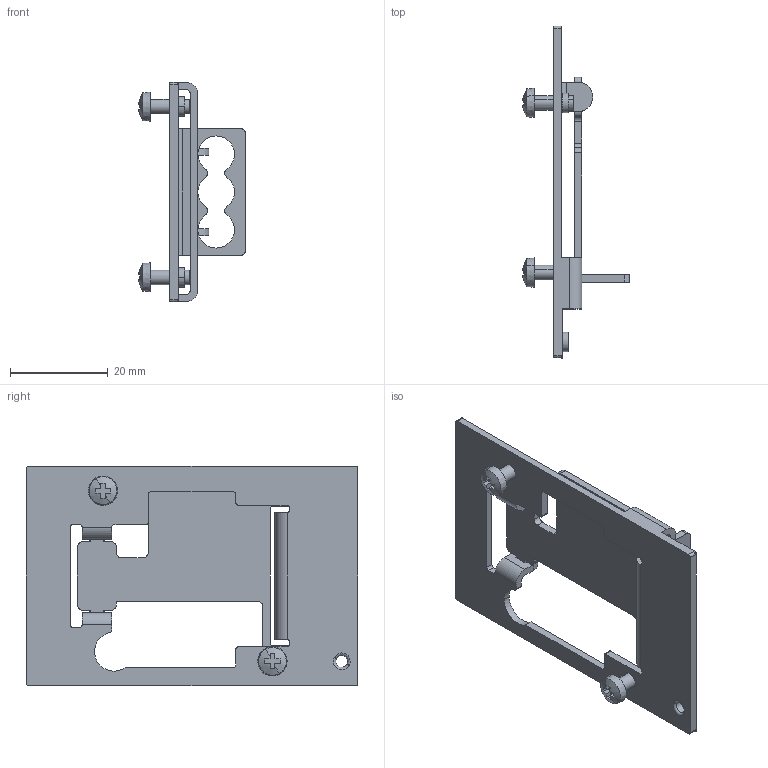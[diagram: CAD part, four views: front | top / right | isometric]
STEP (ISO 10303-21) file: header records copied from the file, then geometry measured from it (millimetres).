
FILE_DESCRIPTION((''),'2;1');
FILE_NAME('PRT0003','2022-09-09T16:23:02',('SGowda1'),('Rockwell Automation'),'CREO PARAMETRIC BY PTC INC, 2020281','CREO PARAMETRIC BY PTC INC, 2020281','');
FILE_SCHEMA(('AUTOMOTIVE_DESIGN { 1 0 10303 214 1 1 1 1 }'));
Length unit declared in the file: millimetre
Products named in the file (1): PRT0003
Bounding box: 21.91 x 68 x 45 mm (x, y, z)
Volume: 4882.6 mm3; surface area: 7855.1 mm2
Topology: 1 solids, 3 shells, 201 faces, 562 edges, 366 vertices
Faces by surface type: plane 97, cylinder 80, torus 16, bspline 4, cone 4
Entity records: 8273 total; most frequent: CARTESIAN_POINT 1419, DIRECTION 1138, ORIENTED_EDGE 1118, EDGE_CURVE 562, AXIS2_PLACEMENT_3D 411, VERTEX_POINT 366, VECTOR 316, LINE 316
